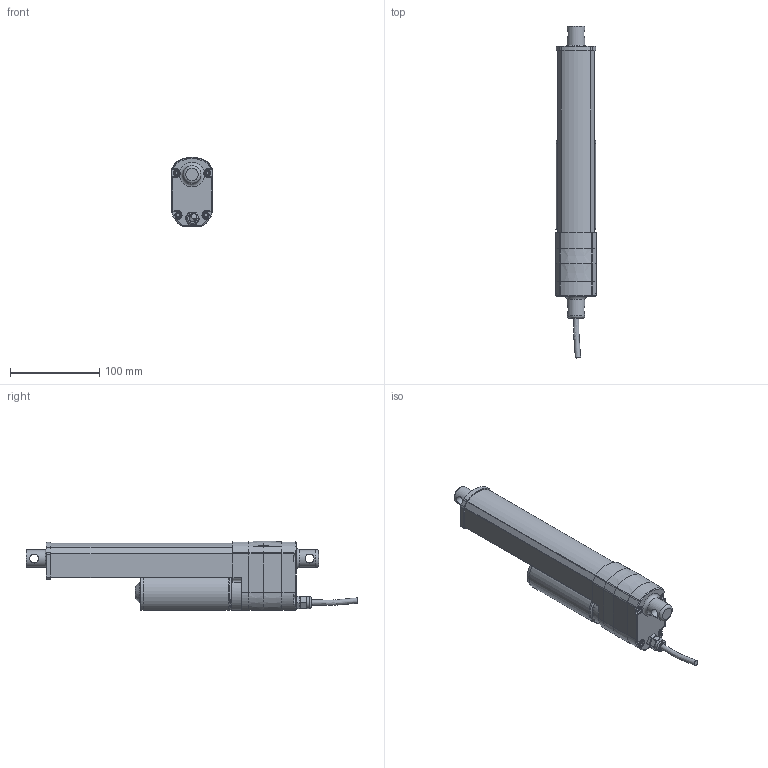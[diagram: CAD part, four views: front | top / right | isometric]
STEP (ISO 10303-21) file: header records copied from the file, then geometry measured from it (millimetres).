
FILE_DESCRIPTION (( 'STEP AP203' ), '1' );
FILE_NAME ('MK52-POT.STEP', '2026-01-29T05:55:27', ( '' ), ( '' ), 'SwSTEP 2.0', 'SolidWorks 2023', '' );
FILE_SCHEMA (( 'CONFIG_CONTROL_DESIGN' ));
Length unit declared in the file: millimetre
Products named in the file (3): Boby-POT; MK52-POT; Inner tube
Assembly tree (2 placements, depth 2):
  MK52-POT
    Boby-POT
    Inner tube
Bounding box: 46.12 x 372.23 x 78.01 mm (x, y, z)
Surface area: 126918.7 mm2 (no closed solid volume)
Topology: 0 solids, 20 shells, 302 faces, 895 edges, 602 vertices
Faces by surface type: cylinder 119, plane 110, cone 31, torus 21, bspline 13, sphere 8
Full cylindrical faces by diameter (mm): 2.5 x4, 4 x4, 5 x1, 6 x1, 7 x1, 10 x2, 13.5 x1, 16.4 x1, 20 x3, 23 x1, 26 x1, 40.1 x1
Entity records: 11041 total; most frequent: CARTESIAN_POINT 3065, DIRECTION 1654, ORIENTED_EDGE 1405, EDGE_CURVE 829, AXIS2_PLACEMENT_3D 631, VERTEX_POINT 588, VECTOR 392, LINE 392
